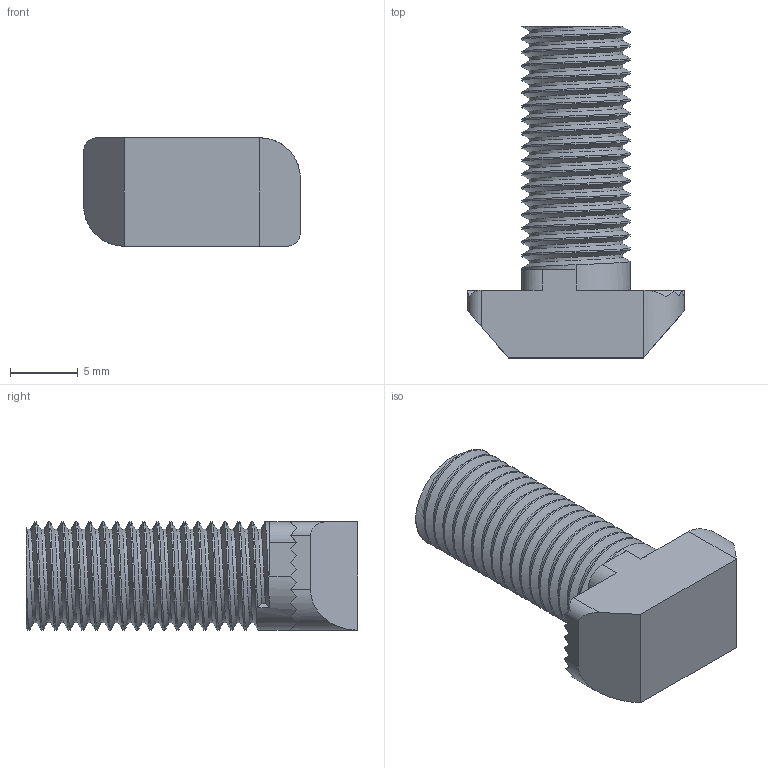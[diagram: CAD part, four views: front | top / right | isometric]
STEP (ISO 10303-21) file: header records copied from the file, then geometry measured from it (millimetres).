
FILE_DESCRIPTION (( 'STEP AP214' ), '1' );
FILE_NAME ('8-2-M8x20.STEP', '2018-03-03T18:34:01', ( '' ), ( '' ), 'SwSTEP 2.0', 'SolidWorks 2018', '' );
FILE_SCHEMA (( 'AUTOMOTIVE_DESIGN' ));
Length unit declared in the file: millimetre
Products named in the file (1): 8-2-M8x20
Bounding box: 16 x 24.5 x 8 mm (x, y, z)
Volume: 1392.2 mm3; surface area: 1169 mm2
Topology: 1 solids, 1 shells, 90 faces, 252 edges, 164 vertices
Faces by surface type: plane 45, cylinder 42, bspline 3
Entity records: 5548 total; most frequent: CARTESIAN_POINT 3571, ORIENTED_EDGE 504, DIRECTION 311, EDGE_CURVE 252, VERTEX_POINT 164, VECTOR 125, LINE 125, AXIS2_PLACEMENT_3D 93
